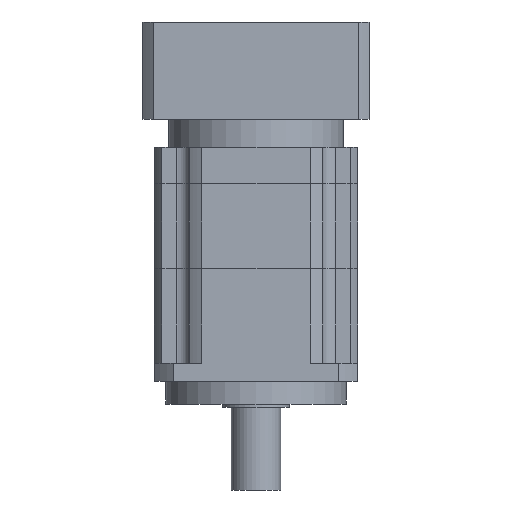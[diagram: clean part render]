
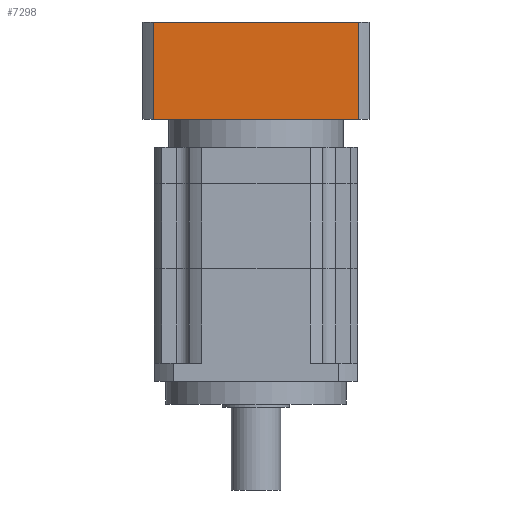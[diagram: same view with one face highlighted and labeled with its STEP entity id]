
A CAD part, front view. The second image highlights one B-rep face of the part: STEP entity #7298.
In plain terms, the highlighted planar face has unit normal (0, -1, 0).
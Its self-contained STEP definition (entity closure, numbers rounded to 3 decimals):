
#193 = VERTEX_POINT ( 'NONE', #7034 ) ;
#401 = VERTEX_POINT ( 'NONE', #10676 ) ;
#609 = EDGE_CURVE ( 'NONE', #401, #193, #7266, .T. ) ;
#813 = ORIENTED_EDGE ( 'NONE', *, *, #7627, .F. ) ;
#1458 = ORIENTED_EDGE ( 'NONE', *, *, #4379, .T. ) ;
#2475 = VERTEX_POINT ( 'NONE', #5691 ) ;
#2634 = CARTESIAN_POINT ( 'NONE',  ( 45.346, -50., 169. ) ) ;
#2805 = CARTESIAN_POINT ( 'NONE',  ( 0., -50., 169. ) ) ;
#3489 = EDGE_LOOP ( 'NONE', ( #7943, #813, #4424, #1458 ) ) ;
#3990 = LINE ( 'NONE', #9009, #6518 ) ;
#4379 = EDGE_CURVE ( 'NONE', #193, #7194, #3990, .T. ) ;
#4388 = DIRECTION ( 'NONE',  ( 0., 0., -1. ) ) ;
#4424 = ORIENTED_EDGE ( 'NONE', *, *, #609, .T. ) ;
#4768 = FACE_OUTER_BOUND ( 'NONE', #3489, .T. ) ;
#5227 = CARTESIAN_POINT ( 'NONE',  ( 0., -50., 169. ) ) ;
#5503 = DIRECTION ( 'NONE',  ( 0., 0., -1. ) ) ;
#5691 = CARTESIAN_POINT ( 'NONE',  ( 45.346, -50., 126. ) ) ;
#6518 = VECTOR ( 'NONE', #5503, 1000. ) ;
#6602 = CARTESIAN_POINT ( 'NONE',  ( 0., -50., 126. ) ) ;
#6915 = DIRECTION ( 'NONE',  ( -1., 0., 0. ) ) ;
#7034 = CARTESIAN_POINT ( 'NONE',  ( -45.346, -50., 169. ) ) ;
#7194 = VERTEX_POINT ( 'NONE', #7668 ) ;
#7224 = AXIS2_PLACEMENT_3D ( 'NONE', #2805, #9480, #4388 ) ;
#7266 = LINE ( 'NONE', #5227, #7532 ) ;
#7298 = ADVANCED_FACE ( 'NONE', ( #4768 ), #7838, .T. ) ;
#7430 = VECTOR ( 'NONE', #11044, 1000. ) ;
#7532 = VECTOR ( 'NONE', #6915, 1000. ) ;
#7627 = EDGE_CURVE ( 'NONE', #401, #2475, #8089, .T. ) ;
#7668 = CARTESIAN_POINT ( 'NONE',  ( -45.346, -50., 126. ) ) ;
#7838 = PLANE ( 'NONE',  #7224 ) ;
#7943 = ORIENTED_EDGE ( 'NONE', *, *, #7954, .F. ) ;
#7954 = EDGE_CURVE ( 'NONE', #2475, #7194, #8355, .T. ) ;
#8089 = LINE ( 'NONE', #2634, #8893 ) ;
#8355 = LINE ( 'NONE', #6602, #7430 ) ;
#8893 = VECTOR ( 'NONE', #9456, 1000. ) ;
#9009 = CARTESIAN_POINT ( 'NONE',  ( -45.346, -50., 169. ) ) ;
#9456 = DIRECTION ( 'NONE',  ( 0., 0., -1. ) ) ;
#9480 = DIRECTION ( 'NONE',  ( 0., -1., 0. ) ) ;
#10676 = CARTESIAN_POINT ( 'NONE',  ( 45.346, -50., 169. ) ) ;
#11044 = DIRECTION ( 'NONE',  ( -1., 0., 0. ) ) ;
